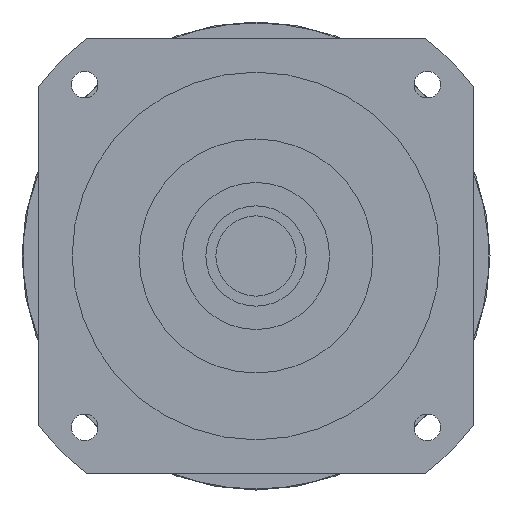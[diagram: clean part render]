
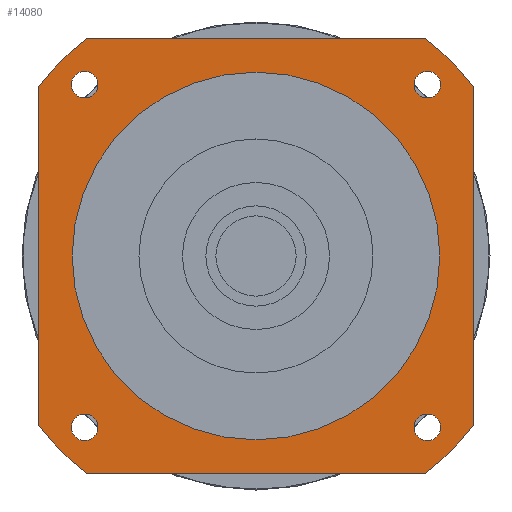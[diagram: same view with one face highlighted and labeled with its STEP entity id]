
A CAD part, left-side view. The second image highlights one B-rep face of the part: STEP entity #14080.
In plain terms, the highlighted planar face has unit normal (-1, 0, 0) as drawn and (0, 0, -1) by its records, which use the part's own axes.
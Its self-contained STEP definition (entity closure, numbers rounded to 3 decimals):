
#12380=CARTESIAN_POINT('',(55.265,-51.265,-62.7));
#12390=VERTEX_POINT('',#12380);
#12420=CARTESIAN_POINT('',(51.265,-51.265,-62.7));
#12430=DIRECTION('',(0.,0.,-1.));
#12440=DIRECTION('',(1.,0.,0.));
#12450=AXIS2_PLACEMENT_3D('',#12420,#12430,#12440);
#12460=CIRCLE('',#12450,4.);
#12470=CARTESIAN_POINT('',(47.265,-51.265,-62.7));
#12480=VERTEX_POINT('',#12470);
#12490=EDGE_CURVE('',#12480,#12390,#12460,.T.);
#12640=CARTESIAN_POINT('',(65.,65.,-62.7));
#12650=DIRECTION('',(0.,0.,-1.));
#12660=DIRECTION('',(1.,0.,0.));
#12670=AXIS2_PLACEMENT_3D('',#12640,#12650,#12660);
#12680=PLANE('',#12670);
#12690=CARTESIAN_POINT('',(-51.265,-51.265,-62.7));
#12700=DIRECTION('',(0.,0.,-1.));
#12710=DIRECTION('',(0.,-1.,0.));
#12720=AXIS2_PLACEMENT_3D('',#12690,#12700,#12710);
#12730=CIRCLE('',#12720,4.);
#12740=CARTESIAN_POINT('',(-51.265,-55.265,-62.7));
#12750=VERTEX_POINT('',#12740);
#12760=CARTESIAN_POINT('',(-51.265,-47.265,-62.7));
#12770=VERTEX_POINT('',#12760);
#12780=EDGE_CURVE('',#12750,#12770,#12730,.T.);
#12790=ORIENTED_EDGE('',*,*,#12780,.F.);
#12800=EDGE_CURVE('',#12770,#12750,#12730,.T.);
#12810=ORIENTED_EDGE('',*,*,#12800,.F.);
#12820=EDGE_LOOP('',(#12810,#12790));
#12830=FACE_BOUND('',#12820,.T.);
#12840=CARTESIAN_POINT('',(-51.265,51.265,-62.7));
#12850=DIRECTION('',(0.,0.,-1.));
#12860=DIRECTION('',(-1.,0.,0.));
#12870=AXIS2_PLACEMENT_3D('',#12840,#12850,#12860);
#12880=CIRCLE('',#12870,4.);
#12890=CARTESIAN_POINT('',(-55.265,51.265,-62.7));
#12900=VERTEX_POINT('',#12890);
#12910=CARTESIAN_POINT('',(-47.265,51.265,-62.7));
#12920=VERTEX_POINT('',#12910);
#12930=EDGE_CURVE('',#12900,#12920,#12880,.T.);
#12940=ORIENTED_EDGE('',*,*,#12930,.F.);
#12950=EDGE_CURVE('',#12920,#12900,#12880,.T.);
#12960=ORIENTED_EDGE('',*,*,#12950,.F.);
#12970=EDGE_LOOP('',(#12960,#12940));
#12980=FACE_BOUND('',#12970,.T.);
#12990=CARTESIAN_POINT('',(51.265,51.265,-62.7));
#13000=DIRECTION('',(0.,0.,-1.));
#13010=DIRECTION('',(0.,1.,0.));
#13020=AXIS2_PLACEMENT_3D('',#12990,#13000,#13010);
#13030=CIRCLE('',#13020,4.);
#13040=CARTESIAN_POINT('',(51.265,55.265,-62.7));
#13050=VERTEX_POINT('',#13040);
#13060=CARTESIAN_POINT('',(51.265,47.265,-62.7));
#13070=VERTEX_POINT('',#13060);
#13080=EDGE_CURVE('',#13050,#13070,#13030,.T.);
#13090=ORIENTED_EDGE('',*,*,#13080,.F.);
#13100=EDGE_CURVE('',#13070,#13050,#13030,.T.);
#13110=ORIENTED_EDGE('',*,*,#13100,.F.);
#13120=EDGE_LOOP('',(#13110,#13090));
#13130=FACE_BOUND('',#13120,.T.);
#13140=CARTESIAN_POINT('',(0.,0.,
-62.7));
#13150=DIRECTION('',(0.,0.,1.));
#13160=DIRECTION('',(0.,1.,0.));
#13170=AXIS2_PLACEMENT_3D('',#13140,#13150,#13160);
#13180=CIRCLE('',#13170,55.);
#13190=CARTESIAN_POINT('',(-55.,0.,-62.7));
#13200=VERTEX_POINT('',#13190);
#13210=CARTESIAN_POINT('',(55.,0.,-62.7));
#13220=VERTEX_POINT('',#13210);
#13230=EDGE_CURVE('',#13200,#13220,#13180,.T.);
#13240=ORIENTED_EDGE('',*,*,#13230,.T.);
#13250=CARTESIAN_POINT('',(0.,55.,-62.7));
#13260=VERTEX_POINT('',#13250);
#13270=EDGE_CURVE('',#13260,#13200,#13180,.T.);
#13280=ORIENTED_EDGE('',*,*,#13270,.T.);
#13290=EDGE_CURVE('',#13220,#13260,#13180,.T.);
#13300=ORIENTED_EDGE('',*,*,#13290,.T.);
#13310=EDGE_LOOP('',(#13300,#13280,#13240));
#13320=FACE_BOUND('',#13310,.T.);
#13330=CARTESIAN_POINT('',(-65.,65.,-62.7));
#13340=DIRECTION('',(1.,0.,0.));
#13350=VECTOR('',#13340,1000.);
#13360=LINE('',#13330,#13350);
#13370=CARTESIAN_POINT('',(-50.806,65.,-62.7));
#13380=VERTEX_POINT('',#13370);
#13390=CARTESIAN_POINT('',(50.806,65.,-62.7));
#13400=VERTEX_POINT('',#13390);
#13410=EDGE_CURVE('',#13380,#13400,#13360,.T.);
#13420=ORIENTED_EDGE('',*,*,#13410,.T.);
#13430=CARTESIAN_POINT('',(0.,0.,
-62.7));
#13440=DIRECTION('',(0.,0.,-1.));
#13450=DIRECTION('',(1.,0.,0.));
#13460=AXIS2_PLACEMENT_3D('',#13430,#13440,#13450);
#13470=CIRCLE('',#13460,82.5);
#13480=CARTESIAN_POINT('',(-65.,50.806,-62.7));
#13490=VERTEX_POINT('',#13480);
#13500=EDGE_CURVE('',#13490,#13380,#13470,.T.);
#13510=ORIENTED_EDGE('',*,*,#13500,.T.);
#13520=CARTESIAN_POINT('',(-65.,-65.,-62.7));
#13530=DIRECTION('',(0.,1.,0.));
#13540=VECTOR('',#13530,1000.);
#13550=LINE('',#13520,#13540);
#13560=CARTESIAN_POINT('',(-65.,-50.806,-62.7));
#13570=VERTEX_POINT('',#13560);
#13580=EDGE_CURVE('',#13570,#13490,#13550,.T.);
#13590=ORIENTED_EDGE('',*,*,#13580,.T.);
#13600=CARTESIAN_POINT('',(0.,0.,
-62.7));
#13610=DIRECTION('',(0.,0.,-1.));
#13620=DIRECTION('',(1.,0.,0.));
#13630=AXIS2_PLACEMENT_3D('',#13600,#13610,#13620);
#13640=CIRCLE('',#13630,82.5);
#13650=CARTESIAN_POINT('',(-50.806,-65.,-62.7));
#13660=VERTEX_POINT('',#13650);
#13670=EDGE_CURVE('',#13660,#13570,#13640,.T.);
#13680=ORIENTED_EDGE('',*,*,#13670,.T.);
#13690=CARTESIAN_POINT('',(65.,-65.,-62.7));
#13700=DIRECTION('',(-1.,0.,0.));
#13710=VECTOR('',#13700,1000.);
#13720=LINE('',#13690,#13710);
#13730=CARTESIAN_POINT('',(50.806,-65.,-62.7));
#13740=VERTEX_POINT('',#13730);
#13750=EDGE_CURVE('',#13740,#13660,#13720,.T.);
#13760=ORIENTED_EDGE('',*,*,#13750,.T.);
#13770=CARTESIAN_POINT('',(0.,0.,
-62.7));
#13780=DIRECTION('',(0.,0.,-1.));
#13790=DIRECTION('',(1.,0.,0.));
#13800=AXIS2_PLACEMENT_3D('',#13770,#13780,#13790);
#13810=CIRCLE('',#13800,82.5);
#13820=CARTESIAN_POINT('',(65.,-50.806,-62.7));
#13830=VERTEX_POINT('',#13820);
#13840=EDGE_CURVE('',#13830,#13740,#13810,.T.);
#13850=ORIENTED_EDGE('',*,*,#13840,.T.);
#13860=CARTESIAN_POINT('',(65.,65.,-62.7));
#13870=DIRECTION('',(0.,-1.,0.));
#13880=VECTOR('',#13870,1000.);
#13890=LINE('',#13860,#13880);
#13900=CARTESIAN_POINT('',(65.,50.806,-62.7));
#13910=VERTEX_POINT('',#13900);
#13920=EDGE_CURVE('',#13910,#13830,#13890,.T.);
#13930=ORIENTED_EDGE('',*,*,#13920,.T.);
#13940=CARTESIAN_POINT('',(0.,0.,
-62.7));
#13950=DIRECTION('',(0.,0.,-1.));
#13960=DIRECTION('',(1.,0.,0.));
#13970=AXIS2_PLACEMENT_3D('',#13940,#13950,#13960);
#13980=CIRCLE('',#13970,82.5);
#13990=EDGE_CURVE('',#13400,#13910,#13980,.T.);
#14000=ORIENTED_EDGE('',*,*,#13990,.T.);
#14010=EDGE_LOOP('',(#14000,#13930,#13850,#13760,#13680,#13590,#13510,
#13420));
#14020=FACE_OUTER_BOUND('',#14010,.T.);
#14030=EDGE_CURVE('',#12390,#12480,#12460,.T.);
#14040=ORIENTED_EDGE('',*,*,#14030,.F.);
#14050=ORIENTED_EDGE('',*,*,#12490,.F.);
#14060=EDGE_LOOP('',(#14050,#14040));
#14070=FACE_BOUND('',#14060,.T.);
#14080=ADVANCED_FACE('',(#12830,#12980,#13130,#13320,#14020,#14070),
#12680,.T.);
